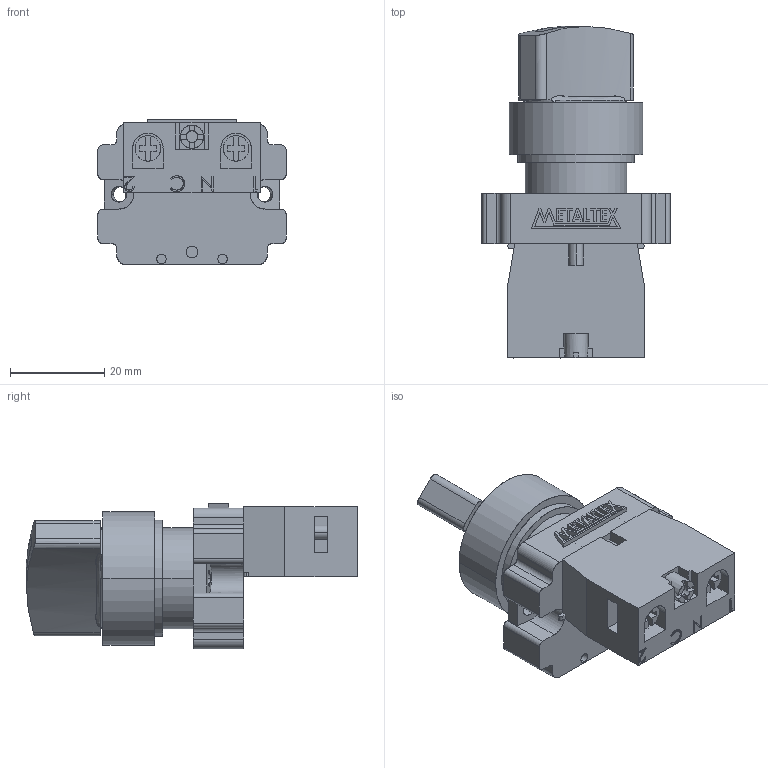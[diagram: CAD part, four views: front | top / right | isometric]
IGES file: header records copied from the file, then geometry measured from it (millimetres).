
Start section: SolidWorks IGES file using analytic representation for surfaces
Global section: file name: D:\X - Arquivos\PROEX\Empresas\P11 - METALTEX\01 - Produtos\IGES\Primeira remessa\M20SCR2-B-1A.IGS; native system: SolidWorks 2012; preprocessor: SolidWorks 2012; author: Usuario; date: 180117.114536; units: millimetre
Bounding box: 40 x 70.6 x 30.9 mm (x, y, z)
Surface area: 12304.4 mm2 (no closed solid volume)
Topology: 0 solids, 0 shells, 365 faces, 4159 edges, 4159 vertices
Faces by surface type: bspline 287, revolution 78
